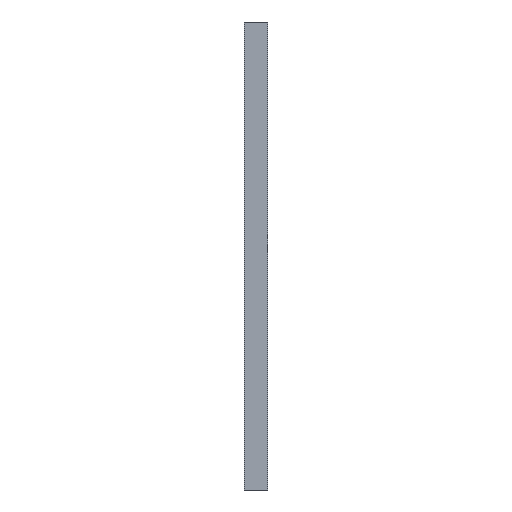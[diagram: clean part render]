
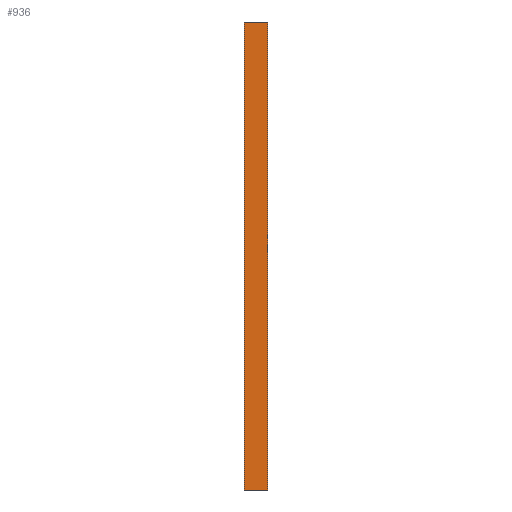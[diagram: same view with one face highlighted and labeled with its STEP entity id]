
A CAD part, left-side view. The second image highlights one B-rep face of the part: STEP entity #936.
In plain terms, the highlighted planar face has unit normal (-1, 0, 0).
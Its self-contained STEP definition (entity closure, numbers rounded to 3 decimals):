
#39 = CARTESIAN_POINT ( 'NONE',  ( -205.5, -20., -354. ) ) ;
#49 = DIRECTION ( 'NONE',  ( 0., 1., 0. ) ) ;
#78 = DIRECTION ( 'NONE',  ( -1., 0., 0. ) ) ;
#80 = ORIENTED_EDGE ( 'NONE', *, *, #299, .F. ) ;
#83 = EDGE_CURVE ( 'NONE', #1125, #124, #519, .T. ) ;
#87 = CARTESIAN_POINT ( 'NONE',  ( -205.5, -20., -354. ) ) ;
#92 = EDGE_LOOP ( 'NONE', ( #513, #80, #1069, #885 ) ) ;
#98 = VERTEX_POINT ( 'NONE', #1041 ) ;
#124 = VERTEX_POINT ( 'NONE', #1124 ) ;
#137 = CARTESIAN_POINT ( 'NONE',  ( -205.5, -20., -354. ) ) ;
#228 = EDGE_CURVE ( 'NONE', #124, #394, #1065, .T. ) ;
#299 = EDGE_CURVE ( 'NONE', #1125, #98, #993, .T. ) ;
#347 = PLANE ( 'NONE',  #1113 ) ;
#383 = CARTESIAN_POINT ( 'NONE',  ( -205.5, -20., 50. ) ) ;
#394 = VERTEX_POINT ( 'NONE', #614 ) ;
#437 = DIRECTION ( 'NONE',  ( 0., 0., 1. ) ) ;
#474 = DIRECTION ( 'NONE',  ( 0., 1., 0. ) ) ;
#513 = ORIENTED_EDGE ( 'NONE', *, *, #740, .F. ) ;
#519 = LINE ( 'NONE', #770, #1022 ) ;
#528 = DIRECTION ( 'NONE',  ( 0., 0., 1. ) ) ;
#572 = VECTOR ( 'NONE', #49, 1000. ) ;
#596 = DIRECTION ( 'NONE',  ( 0., 0., 1. ) ) ;
#614 = CARTESIAN_POINT ( 'NONE',  ( -205.5, 0., 50. ) ) ;
#665 = LINE ( 'NONE', #928, #711 ) ;
#711 = VECTOR ( 'NONE', #596, 1000. ) ;
#740 = EDGE_CURVE ( 'NONE', #98, #394, #665, .T. ) ;
#770 = CARTESIAN_POINT ( 'NONE',  ( -205.5, -20., -354. ) ) ;
#790 = VECTOR ( 'NONE', #474, 1000. ) ;
#885 = ORIENTED_EDGE ( 'NONE', *, *, #228, .T. ) ;
#928 = CARTESIAN_POINT ( 'NONE',  ( -205.5, 0., -354. ) ) ;
#936 = ADVANCED_FACE ( 'NONE', ( #957 ), #347, .T. ) ;
#957 = FACE_OUTER_BOUND ( 'NONE', #92, .T. ) ;
#993 = LINE ( 'NONE', #39, #572 ) ;
#1022 = VECTOR ( 'NONE', #528, 1000. ) ;
#1041 = CARTESIAN_POINT ( 'NONE',  ( -205.5, 0., -354. ) ) ;
#1065 = LINE ( 'NONE', #383, #790 ) ;
#1069 = ORIENTED_EDGE ( 'NONE', *, *, #83, .T. ) ;
#1113 = AXIS2_PLACEMENT_3D ( 'NONE', #87, #78, #437 ) ;
#1124 = CARTESIAN_POINT ( 'NONE',  ( -205.5, -20., 50. ) ) ;
#1125 = VERTEX_POINT ( 'NONE', #137 ) ;
